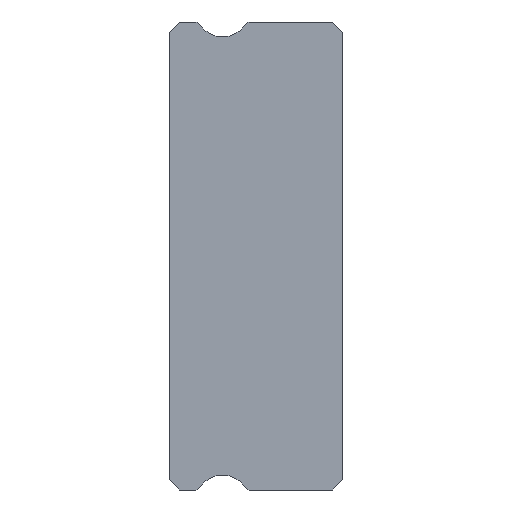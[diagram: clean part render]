
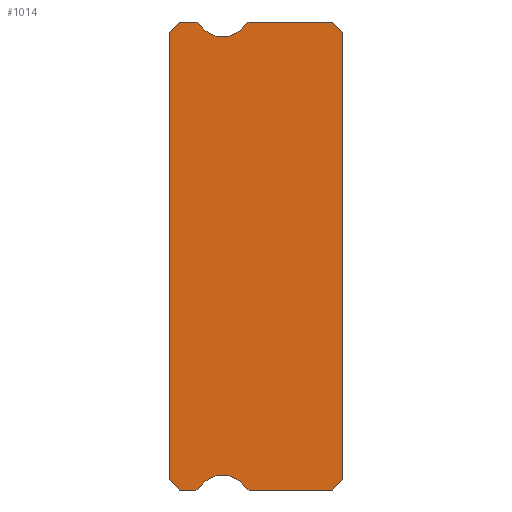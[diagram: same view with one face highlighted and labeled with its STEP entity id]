
A CAD part, left-side view. The second image highlights one B-rep face of the part: STEP entity #1014.
In plain terms, the highlighted planar face has unit normal (-1, 0, 0).
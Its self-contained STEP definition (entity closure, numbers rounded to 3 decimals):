
#20=CIRCLE('',#1082,0.15);
#22=CIRCLE('',#1085,0.8);
#24=CIRCLE('',#1088,0.15);
#43=CIRCLE('',#1113,0.15);
#45=CIRCLE('',#1116,0.8);
#47=CIRCLE('',#1119,0.15);
#254=ORIENTED_EDGE('',*,*,#372,.F.);
#255=ORIENTED_EDGE('',*,*,#452,.F.);
#256=ORIENTED_EDGE('',*,*,#432,.F.);
#257=ORIENTED_EDGE('',*,*,#429,.F.);
#258=ORIENTED_EDGE('',*,*,#426,.F.);
#259=ORIENTED_EDGE('',*,*,#423,.T.);
#260=ORIENTED_EDGE('',*,*,#420,.F.);
#261=ORIENTED_EDGE('',*,*,#417,.F.);
#262=ORIENTED_EDGE('',*,*,#414,.F.);
#263=ORIENTED_EDGE('',*,*,#411,.F.);
#264=ORIENTED_EDGE('',*,*,#391,.F.);
#265=ORIENTED_EDGE('',*,*,#388,.F.);
#266=ORIENTED_EDGE('',*,*,#385,.F.);
#267=ORIENTED_EDGE('',*,*,#382,.T.);
#268=ORIENTED_EDGE('',*,*,#379,.F.);
#269=ORIENTED_EDGE('',*,*,#376,.F.);
#372=EDGE_CURVE('',#488,#489,#588,.T.);
#376=EDGE_CURVE('',#489,#492,#592,.T.);
#379=EDGE_CURVE('',#492,#494,#20,.T.);
#382=EDGE_CURVE('',#496,#494,#22,.T.);
#385=EDGE_CURVE('',#496,#498,#24,.T.);
#388=EDGE_CURVE('',#498,#500,#598,.T.);
#391=EDGE_CURVE('',#500,#502,#601,.T.);
#411=EDGE_CURVE('',#502,#521,#604,.T.);
#414=EDGE_CURVE('',#521,#523,#607,.T.);
#417=EDGE_CURVE('',#523,#525,#610,.T.);
#420=EDGE_CURVE('',#525,#527,#43,.T.);
#423=EDGE_CURVE('',#529,#527,#45,.T.);
#426=EDGE_CURVE('',#529,#531,#47,.T.);
#429=EDGE_CURVE('',#531,#533,#616,.T.);
#432=EDGE_CURVE('',#533,#535,#619,.T.);
#452=EDGE_CURVE('',#535,#488,#622,.T.);
#488=VERTEX_POINT('',#1567);
#489=VERTEX_POINT('',#1568);
#492=VERTEX_POINT('',#1576);
#494=VERTEX_POINT('',#1582);
#496=VERTEX_POINT('',#1588);
#498=VERTEX_POINT('',#1594);
#500=VERTEX_POINT('',#1600);
#502=VERTEX_POINT('',#1606);
#521=VERTEX_POINT('',#1646);
#523=VERTEX_POINT('',#1652);
#525=VERTEX_POINT('',#1658);
#527=VERTEX_POINT('',#1664);
#529=VERTEX_POINT('',#1670);
#531=VERTEX_POINT('',#1676);
#533=VERTEX_POINT('',#1682);
#535=VERTEX_POINT('',#1688);
#588=LINE('',#1566,#624);
#592=LINE('',#1575,#628);
#598=LINE('',#1599,#634);
#601=LINE('',#1605,#637);
#604=LINE('',#1645,#640);
#607=LINE('',#1651,#643);
#610=LINE('',#1657,#646);
#616=LINE('',#1681,#652);
#619=LINE('',#1687,#655);
#622=LINE('',#1727,#658);
#624=VECTOR('',#1232,1000.);
#628=VECTOR('',#1238,1000.);
#634=VECTOR('',#1264,1000.);
#637=VECTOR('',#1269,1000.);
#640=VECTOR('',#1308,1000.);
#643=VECTOR('',#1313,1000.);
#646=VECTOR('',#1318,1000.);
#652=VECTOR('',#1344,1000.);
#655=VECTOR('',#1349,1000.);
#658=VECTOR('',#1388,1000.);
#711=EDGE_LOOP('',(#254,#255,#256,#257,#258,#259,#260,#261,#262,#263,#264,
#265,#266,#267,#268,#269));
#865=FACE_BOUND('',#711,.T.);
#979=PLANE('',#1142);
#1014=ADVANCED_FACE('',(#865),#979,.F.);
#1082=AXIS2_PLACEMENT_3D('',#1581,#1243,#1244);
#1085=AXIS2_PLACEMENT_3D('',#1587,#1250,#1251);
#1088=AXIS2_PLACEMENT_3D('',#1593,#1257,#1258);
#1113=AXIS2_PLACEMENT_3D('',#1663,#1323,#1324);
#1116=AXIS2_PLACEMENT_3D('',#1669,#1330,#1331);
#1119=AXIS2_PLACEMENT_3D('',#1675,#1337,#1338);
#1142=AXIS2_PLACEMENT_3D('',#1730,#1392,#1393);
#1232=DIRECTION('',(0.,-0.707,0.707));
#1238=DIRECTION('',(0.,-1.,0.));
#1243=DIRECTION('',(1.,0.,0.));
#1244=DIRECTION('',(0.,0.,-1.));
#1250=DIRECTION('',(1.,0.,0.));
#1251=DIRECTION('',(0.,0.,-1.));
#1257=DIRECTION('',(1.,0.,0.));
#1258=DIRECTION('',(0.,0.,-1.));
#1264=DIRECTION('',(0.,-1.,0.));
#1269=DIRECTION('',(0.,-0.707,-0.707));
#1308=DIRECTION('',(0.,0.,-1.));
#1313=DIRECTION('',(0.,0.707,-0.707));
#1318=DIRECTION('',(0.,1.,0.));
#1323=DIRECTION('',(1.,0.,0.));
#1324=DIRECTION('',(0.,0.,-1.));
#1330=DIRECTION('',(1.,0.,0.));
#1331=DIRECTION('',(0.,0.,-1.));
#1337=DIRECTION('',(1.,0.,0.));
#1338=DIRECTION('',(0.,0.,-1.));
#1344=DIRECTION('',(0.,1.,0.));
#1349=DIRECTION('',(0.,0.707,0.707));
#1388=DIRECTION('',(0.,0.,1.));
#1392=DIRECTION('',(1.,0.,0.));
#1393=DIRECTION('',(0.,0.,-1.));
#1566=CARTESIAN_POINT('',(-10.,5.2,6.7));
#1567=CARTESIAN_POINT('',(-10.,5.2,6.7));
#1568=CARTESIAN_POINT('',(-10.,4.9,7.));
#1575=CARTESIAN_POINT('',(-10.,4.9,7.));
#1576=CARTESIAN_POINT('',(-10.,4.408,7.));
#1581=CARTESIAN_POINT('',(-10.,4.408,6.85));
#1582=CARTESIAN_POINT('',(-10.,4.28,6.929));
#1587=CARTESIAN_POINT('',(-10.,3.6,7.35));
#1588=CARTESIAN_POINT('',(-10.,2.92,6.929));
#1593=CARTESIAN_POINT('',(-10.,2.792,6.85));
#1594=CARTESIAN_POINT('',(-10.,2.792,7.));
#1599=CARTESIAN_POINT('',(-10.,2.792,7.));
#1600=CARTESIAN_POINT('',(-10.,0.3,7.));
#1605=CARTESIAN_POINT('',(-10.,0.3,7.));
#1606=CARTESIAN_POINT('',(-10.,0.,6.7));
#1645=CARTESIAN_POINT('',(-10.,0.,6.7));
#1646=CARTESIAN_POINT('',(-10.,0.,-6.7));
#1651=CARTESIAN_POINT('',(-10.,0.,-6.7));
#1652=CARTESIAN_POINT('',(-10.,0.3,-7.));
#1657=CARTESIAN_POINT('',(-10.,0.3,-7.));
#1658=CARTESIAN_POINT('',(-10.,2.792,-7.));
#1663=CARTESIAN_POINT('',(-10.,2.792,-6.85));
#1664=CARTESIAN_POINT('',(-10.,2.92,-6.929));
#1669=CARTESIAN_POINT('',(-10.,3.6,-7.35));
#1670=CARTESIAN_POINT('',(-10.,4.28,-6.929));
#1675=CARTESIAN_POINT('',(-10.,4.408,-6.85));
#1676=CARTESIAN_POINT('',(-10.,4.408,-7.));
#1681=CARTESIAN_POINT('',(-10.,4.408,-7.));
#1682=CARTESIAN_POINT('',(-10.,4.9,-7.));
#1687=CARTESIAN_POINT('',(-10.,4.9,-7.));
#1688=CARTESIAN_POINT('',(-10.,5.2,-6.7));
#1727=CARTESIAN_POINT('',(-10.,5.2,-6.7));
#1730=CARTESIAN_POINT('',(-10.,4.408,6.85));
